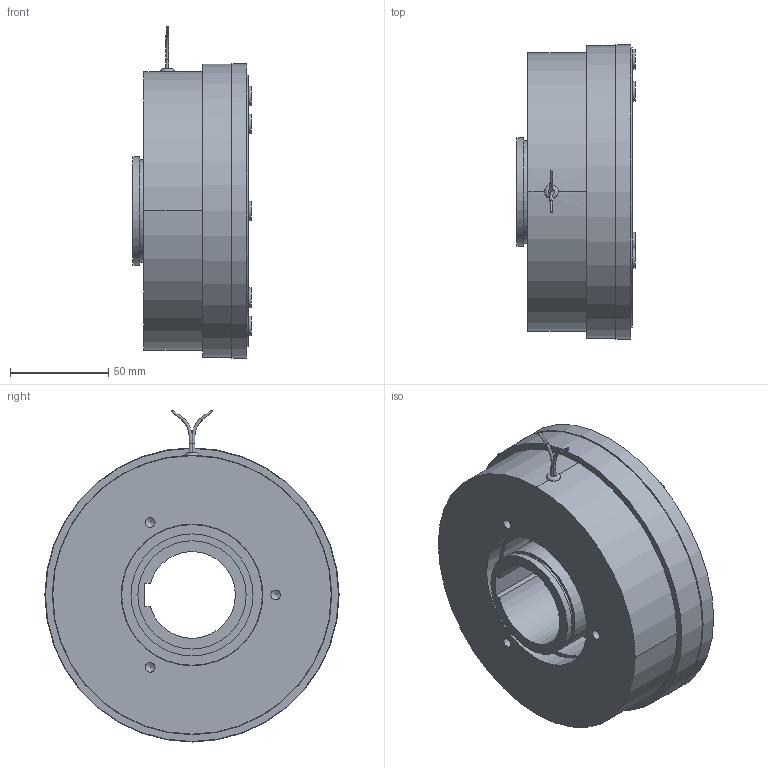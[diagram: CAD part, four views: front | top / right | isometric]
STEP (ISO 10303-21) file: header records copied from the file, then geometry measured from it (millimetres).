
FILE_DESCRIPTION(/* description */ (''),/* implementation_level */ '2;1');
FILE_NAME(/* name */ 'X:\INVENTOR\DISEGNI\08_Freni_Friz_Elettmag_Monodisco\08_26 EMSL_DF\EMSL_DF STEP\08_26_150_21 EMSL150_DF-BM@STEP.stp',/* time_stamp */ '2018-04-24T08:24:16+02:00',/* author */ ('stefano'),/* organization */ (''),/* preprocessor_version */ 'ST-DEVELOPER v17',/* originating_system */ 'Autodesk Inventor 2018',/* authorisation */ '');
FILE_SCHEMA (('AUTOMOTIVE_DESIGN { 1 0 10303 214 3 1 1 }'));
Length unit declared in the file: millimetre
Products named in the file (1): 08_26_150_21 EMSL150_DF-BM_Substitute_1
Bounding box: 60 x 149.5 x 168.72 mm (x, y, z)
Volume: 683569.4 mm3; surface area: 152718.6 mm2
Topology: 4 solids, 4 shells, 233 faces, 659 edges, 462 vertices
Faces by surface type: cylinder 166, plane 48, cone 16, bspline 2, torus 1
Full cylindrical faces by diameter (mm): 1.154 x2, 1.5 x1, 2.2 x6, 4.917 x3, 6 x1, 7.5 x6, 8.1 x3, 10 x12, 52 x1, 55 x2, 62 x1, 71.5 x1, 72 x2, 74 x1, 75 x1, 95 x1, 132 x1, 142 x1, 149 x1, 149.5 x1
Entity records: 8565 total; most frequent: DIRECTION 1564, CARTESIAN_POINT 1563, ORIENTED_EDGE 1312, AXIS2_PLACEMENT_3D 683, EDGE_CURVE 656, VERTEX_POINT 463, CIRCLE 451, EDGE_LOOP 328
